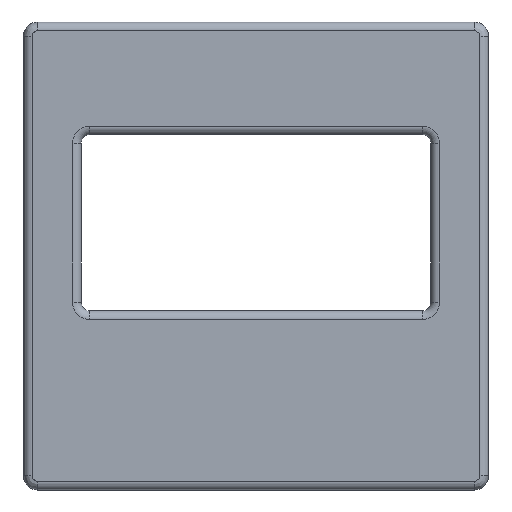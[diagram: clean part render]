
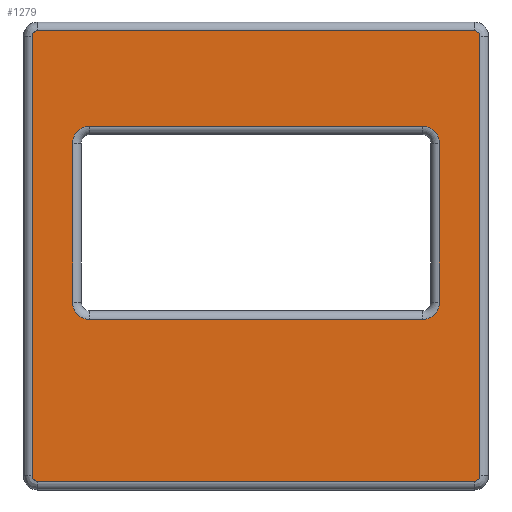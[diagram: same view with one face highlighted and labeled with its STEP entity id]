
A CAD part, front view. The second image highlights one B-rep face of the part: STEP entity #1279.
In plain terms, the highlighted planar face has unit normal (0, -1, 0).
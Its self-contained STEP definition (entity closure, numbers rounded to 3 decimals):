
#25=FACE_BOUND('',#205,.T.);
#41=PLANE('',#1404);
#123=FACE_OUTER_BOUND('',#204,.T.);
#204=EDGE_LOOP('',(#959,#960,#961,#962,#963,#964,#965,#966));
#205=EDGE_LOOP('',(#967,#968,#969,#970,#971,#972,#973,#974));
#276=LINE('',#1966,#396);
#278=LINE('',#1978,#398);
#280=LINE('',#1990,#400);
#281=LINE('',#1998,#401);
#290=LINE('',#2023,#410);
#291=LINE('',#2027,#411);
#292=LINE('',#2031,#412);
#293=LINE('',#2034,#413);
#396=VECTOR('',#1568,10.);
#398=VECTOR('',#1582,10.);
#400=VECTOR('',#1596,10.);
#401=VECTOR('',#1607,10.);
#410=VECTOR('',#1632,10.);
#411=VECTOR('',#1635,10.);
#412=VECTOR('',#1638,10.);
#413=VECTOR('',#1641,10.);
#520=CIRCLE('',#1376,1.2);
#526=CIRCLE('',#1384,1.2);
#530=CIRCLE('',#1390,1.2);
#534=CIRCLE('',#1396,1.2);
#537=CIRCLE('',#1405,0.4);
#538=CIRCLE('',#1406,0.4);
#539=CIRCLE('',#1407,0.4);
#540=CIRCLE('',#1408,0.4);
#587=VERTEX_POINT('',#1954);
#588=VERTEX_POINT('',#1956);
#590=VERTEX_POINT('',#1962);
#592=VERTEX_POINT('',#1968);
#594=VERTEX_POINT('',#1974);
#596=VERTEX_POINT('',#1980);
#598=VERTEX_POINT('',#1986);
#600=VERTEX_POINT('',#1992);
#607=VERTEX_POINT('',#2019);
#608=VERTEX_POINT('',#2020);
#609=VERTEX_POINT('',#2022);
#610=VERTEX_POINT('',#2024);
#611=VERTEX_POINT('',#2026);
#612=VERTEX_POINT('',#2028);
#613=VERTEX_POINT('',#2030);
#614=VERTEX_POINT('',#2032);
#708=EDGE_CURVE('',#587,#588,#520,.T.);
#713=EDGE_CURVE('',#588,#590,#276,.T.);
#716=EDGE_CURVE('',#590,#592,#526,.T.);
#719=EDGE_CURVE('',#592,#594,#278,.T.);
#722=EDGE_CURVE('',#594,#596,#530,.T.);
#725=EDGE_CURVE('',#596,#598,#280,.T.);
#728=EDGE_CURVE('',#598,#600,#534,.T.);
#729=EDGE_CURVE('',#600,#587,#281,.T.);
#740=EDGE_CURVE('',#607,#608,#537,.T.);
#741=EDGE_CURVE('',#609,#607,#290,.T.);
#742=EDGE_CURVE('',#610,#609,#538,.T.);
#743=EDGE_CURVE('',#611,#610,#291,.T.);
#744=EDGE_CURVE('',#612,#611,#539,.T.);
#745=EDGE_CURVE('',#613,#612,#292,.T.);
#746=EDGE_CURVE('',#614,#613,#540,.T.);
#747=EDGE_CURVE('',#608,#614,#293,.T.);
#959=ORIENTED_EDGE('',*,*,#740,.F.);
#960=ORIENTED_EDGE('',*,*,#741,.F.);
#961=ORIENTED_EDGE('',*,*,#742,.F.);
#962=ORIENTED_EDGE('',*,*,#743,.F.);
#963=ORIENTED_EDGE('',*,*,#744,.F.);
#964=ORIENTED_EDGE('',*,*,#745,.F.);
#965=ORIENTED_EDGE('',*,*,#746,.F.);
#966=ORIENTED_EDGE('',*,*,#747,.F.);
#967=ORIENTED_EDGE('',*,*,#708,.F.);
#968=ORIENTED_EDGE('',*,*,#729,.F.);
#969=ORIENTED_EDGE('',*,*,#728,.F.);
#970=ORIENTED_EDGE('',*,*,#725,.F.);
#971=ORIENTED_EDGE('',*,*,#722,.F.);
#972=ORIENTED_EDGE('',*,*,#719,.F.);
#973=ORIENTED_EDGE('',*,*,#716,.F.);
#974=ORIENTED_EDGE('',*,*,#713,.F.);
#1279=ADVANCED_FACE('',(#123,#25),#41,.T.);
#1376=AXIS2_PLACEMENT_3D('',#1957,#1557,#1558);
#1384=AXIS2_PLACEMENT_3D('',#1972,#1575,#1576);
#1390=AXIS2_PLACEMENT_3D('',#1984,#1589,#1590);
#1396=AXIS2_PLACEMENT_3D('',#1996,#1603,#1604);
#1404=AXIS2_PLACEMENT_3D('',#2018,#1628,#1629);
#1405=AXIS2_PLACEMENT_3D('',#2021,#1630,#1631);
#1406=AXIS2_PLACEMENT_3D('',#2025,#1633,#1634);
#1407=AXIS2_PLACEMENT_3D('',#2029,#1636,#1637);
#1408=AXIS2_PLACEMENT_3D('',#2033,#1639,#1640);
#1557=DIRECTION('center_axis',(0.,-1.,0.));
#1558=DIRECTION('ref_axis',(-0.707,0.,0.707));
#1568=DIRECTION('',(0.,0.,-1.));
#1575=DIRECTION('center_axis',(0.,-1.,0.));
#1576=DIRECTION('ref_axis',(-0.707,0.,-0.707));
#1582=DIRECTION('',(1.,0.,0.));
#1589=DIRECTION('center_axis',(0.,-1.,0.));
#1590=DIRECTION('ref_axis',(0.707,0.,-0.707));
#1596=DIRECTION('',(0.,0.,1.));
#1603=DIRECTION('center_axis',(0.,-1.,0.));
#1604=DIRECTION('ref_axis',(0.707,0.,0.707));
#1607=DIRECTION('',(-1.,0.,0.));
#1628=DIRECTION('center_axis',(0.,-1.,0.));
#1629=DIRECTION('ref_axis',(0.,0.,-1.));
#1630=DIRECTION('center_axis',(0.,1.,0.));
#1631=DIRECTION('ref_axis',(-0.707,0.,0.707));
#1632=DIRECTION('',(0.,0.,1.));
#1633=DIRECTION('center_axis',(0.,1.,0.));
#1634=DIRECTION('ref_axis',(-0.707,0.,-0.707));
#1635=DIRECTION('',(-1.,0.,0.));
#1636=DIRECTION('center_axis',(0.,1.,0.));
#1637=DIRECTION('ref_axis',(0.707,0.,-0.707));
#1638=DIRECTION('',(0.,0.,-1.));
#1639=DIRECTION('center_axis',(0.,1.,0.));
#1640=DIRECTION('ref_axis',(0.707,0.,0.707));
#1641=DIRECTION('',(1.,0.,0.));
#1954=CARTESIAN_POINT('',(-11.5,-3.4,9.));
#1956=CARTESIAN_POINT('',(-12.7,-3.4,7.8));
#1957=CARTESIAN_POINT('Origin',(-11.5,-3.4,7.8));
#1962=CARTESIAN_POINT('',(-12.7,-3.4,-3.2));
#1966=CARTESIAN_POINT('',(-12.7,-3.4,-1.9));
#1968=CARTESIAN_POINT('',(-11.5,-3.4,-4.4));
#1972=CARTESIAN_POINT('Origin',(-11.5,-3.4,-3.2));
#1974=CARTESIAN_POINT('',(11.5,-3.4,-4.4));
#1978=CARTESIAN_POINT('',(6.05,-3.4,-4.4));
#1980=CARTESIAN_POINT('',(12.7,-3.4,-3.2));
#1984=CARTESIAN_POINT('Origin',(11.5,-3.4,-3.2));
#1986=CARTESIAN_POINT('',(12.7,-3.4,7.8));
#1990=CARTESIAN_POINT('',(12.7,-3.4,4.2));
#1992=CARTESIAN_POINT('',(11.5,-3.4,9.));
#1996=CARTESIAN_POINT('Origin',(11.5,-3.4,7.8));
#1998=CARTESIAN_POINT('',(-6.05,-3.4,9.));
#2018=CARTESIAN_POINT('Origin',(0.,-3.4,0.));
#2019=CARTESIAN_POINT('',(-15.5,-3.4,15.2));
#2020=CARTESIAN_POINT('',(-15.1,-3.4,15.6));
#2021=CARTESIAN_POINT('Origin',(-15.1,-3.4,15.2));
#2022=CARTESIAN_POINT('',(-15.5,-3.4,-15.2));
#2023=CARTESIAN_POINT('',(-15.5,-3.4,8.1));
#2024=CARTESIAN_POINT('',(-15.1,-3.4,-15.6));
#2025=CARTESIAN_POINT('Origin',(-15.1,-3.4,-15.2));
#2026=CARTESIAN_POINT('',(15.1,-3.4,-15.6));
#2027=CARTESIAN_POINT('',(-8.05,-3.4,-15.6));
#2028=CARTESIAN_POINT('',(15.5,-3.4,-15.2));
#2029=CARTESIAN_POINT('Origin',(15.1,-3.4,-15.2));
#2030=CARTESIAN_POINT('',(15.5,-3.4,15.2));
#2031=CARTESIAN_POINT('',(15.5,-3.4,-8.1));
#2032=CARTESIAN_POINT('',(15.1,-3.4,15.6));
#2033=CARTESIAN_POINT('Origin',(15.1,-3.4,15.2));
#2034=CARTESIAN_POINT('',(8.05,-3.4,15.6));
